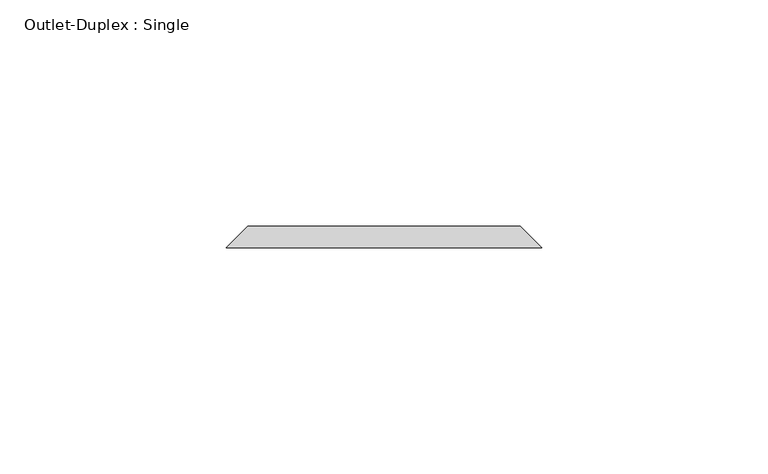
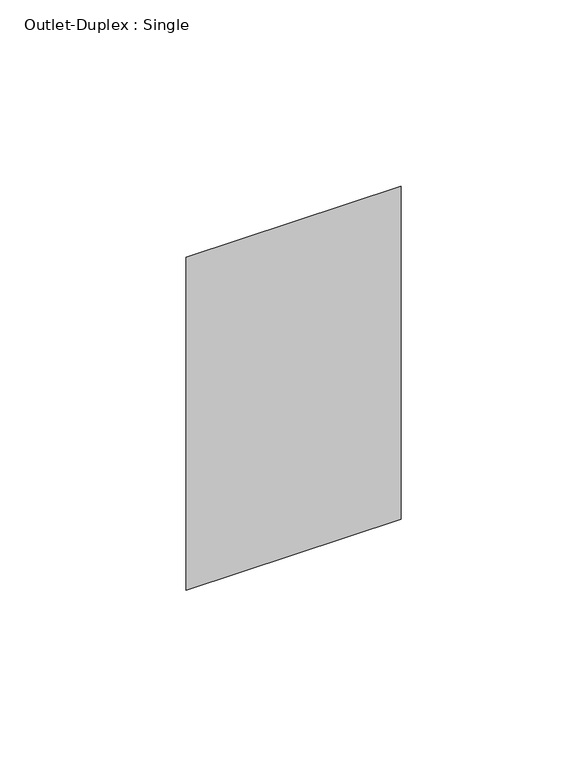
"""IFC4 building model written with IfcOpenShell, lengths in millimetres: proxy geometry, Outlet-Duplex : Single."""

import ifcopenshell
import ifcopenshell.guid

model = None  # the IFC model being written
_history = None  # IfcOwnerHistory: only IFC2X3 demands one
_inside = {}  # id of a spatial element -> (the spatial element, [elements in it])
_under = {}  # id of a project, library or spatial element -> (it, [spatial elements below it])
_declared = {}  # id of a project -> (the project, [libraries it declares])
_typed = {}  # id of a type object -> (the type object, [elements of that type])
_made_of = {}  # id of a material, layer set ... -> (it, [elements and type objects made of it])


def new_model(schema):
    """Start an empty IFC model of exactly this schema.

    Asked for "IFC4X3", IfcOpenShell would pick the latest addendum, in which some entities
    have other attributes; the version numbers below select the first issue.
    IFC2X3 requires an IfcOwnerHistory on every rooted entity: one is made here for all.
    """
    global model, _history
    if schema == "IFC4X3":
        model = ifcopenshell.file(schema_version=(4, 3, 0, 0))
    else:
        model = ifcopenshell.file(schema=schema)
    _inside.clear()
    _under.clear()
    _declared.clear()
    _typed.clear()
    _made_of.clear()
    _history = None
    if model.schema == "IFC2X3":
        org = make("IfcOrganization", Name="unknown")
        user = make(
            "IfcPersonAndOrganization",
            ThePerson=make("IfcPerson", FamilyName="unknown"),
            TheOrganization=org,
        )
        app = make(
            "IfcApplication",
            ApplicationDeveloper=org,
            Version="unknown",
            ApplicationFullName="unknown",
            ApplicationIdentifier="unknown",
        )
        _history = make(
            "IfcOwnerHistory",
            OwningUser=user,
            OwningApplication=app,
            ChangeAction="ADDED",
            CreationDate=0,
        )
    return model


def make(cls, **values):
    """One entity of the class cls with the attributes given. An attribute that is None is left unset."""
    return model.create_entity(
        cls, **{name: value for name, value in values.items() if value is not None}
    )


def rooted(cls, **values):
    """An entity with a GlobalId (a new one), such as an element, a storey or a relation."""
    return make(cls, GlobalId=ifcopenshell.guid.new(), OwnerHistory=_history, **values)


def si_unit(unit_type, name, prefix=None):
    """IfcSIUnit, for example si_unit("LENGTHUNIT", "METRE", prefix="MILLI")."""
    return make("IfcSIUnit", UnitType=unit_type, Prefix=prefix, Name=name)


def assignment(units):
    """IfcUnitAssignment: the units of a project."""
    return None if units is None else make("IfcUnitAssignment", Units=units)


def point(xyz):
    """IfcCartesianPoint."""
    return None if xyz is None else make("IfcCartesianPoint", Coordinates=xyz)


def direction(xyz):
    """IfcDirection."""
    return None if xyz is None else make("IfcDirection", DirectionRatios=xyz)


def frame(location, z_axis=None, x_axis=None):
    """IfcAxis2Placement3D, a coordinate frame: its origin and axes. An axis left out is left unset."""
    return make(
        "IfcAxis2Placement3D",
        Location=point(location),
        Axis=direction(z_axis),
        RefDirection=direction(x_axis),
    )


def origin():
    """The frame at (0, 0, 0) with its axes left unset."""
    return frame((0.0, 0.0, 0.0))


def place(relative_to, where):
    """IfcLocalPlacement: puts the frame where relative to a parent placement (None: the world)."""
    return make(
        "IfcLocalPlacement", PlacementRelTo=relative_to, RelativePlacement=where
    )


def context(
    kind, dimensions, precision=None, world=None, true_north=None, identifier=None
):
    """IfcGeometricRepresentationContext, for example the 3D "Model" context."""
    return make(
        "IfcGeometricRepresentationContext",
        ContextIdentifier=identifier,
        ContextType=kind,
        CoordinateSpaceDimension=dimensions,
        Precision=precision,
        WorldCoordinateSystem=world,
        TrueNorth=true_north,
    )


def project(units=None, contexts=None):
    """IfcProject with its units and contexts."""
    return rooted(
        "IfcProject",
        Name="project",
        RepresentationContexts=contexts,
        UnitsInContext=assignment(units),
    )


def spatial(cls, under=None, at=None, **own):
    """A site, building, storey or space (cls), placed at a placement, below another one or the project."""
    s = rooted(cls, ObjectPlacement=at, **own)
    if under is not None:
        _under.setdefault(under.id(), (under, []))[1].append(s)
    return s


def faces_of(points, faces, orient=None, outer=None):
    """IfcFace entities. A face is a list of loops; a loop is a list of indices into points, from 0.

    orient and outer hold one flag for each loop. By default every Orientation is true, the
    first loop of a face is its IfcFaceOuterBound and the others are IfcFaceBound.
    """
    made = []
    for i, loops in enumerate(faces):
        bounds = []
        for j, loop in enumerate(loops):
            is_outer = j == 0 if outer is None else outer[i][j]
            bounds.append(
                make(
                    "IfcFaceOuterBound" if is_outer else "IfcFaceBound",
                    Bound=make("IfcPolyLoop", Polygon=[points[k] for k in loop]),
                    Orientation=True if orient is None else orient[i][j],
                )
            )
        made.append(make("IfcFace", Bounds=bounds))
    return made


def faceted_brep(points, faces, orient=None, outer=None, voids=None):
    """IfcFacetedBrep: a solid bounded by flat faces; with voids (closed shells), ...WithVoids."""
    shared = [point(p) for p in points]
    hull = make("IfcClosedShell", CfsFaces=faces_of(shared, faces, orient, outer))
    if voids is None:
        return make("IfcFacetedBrep", Outer=hull)
    return make(
        "IfcFacetedBrepWithVoids",
        Outer=hull,
        Voids=[
            make(cls, CfsFaces=faces_of(shared, fs, o, b)) for cls, fs, o, b in voids
        ],
    )


def shape(context_of_items, identifier, shape_type, items):
    """IfcShapeRepresentation: the items that make up one representation, for example the "Body"."""
    return make(
        "IfcShapeRepresentation",
        ContextOfItems=context_of_items,
        RepresentationIdentifier=identifier,
        RepresentationType=shape_type,
        Items=items,
    )


def source(mapping_origin, context_of_items, identifier, shape_type, items):
    """IfcRepresentationMap: a shape defined once, which mapped items show again and again."""
    return make(
        "IfcRepresentationMap",
        MappingOrigin=mapping_origin,
        MappedRepresentation=shape(context_of_items, identifier, shape_type, items),
    )


def transform(
    local_origin,
    x_axis=None,
    y_axis=None,
    z_axis=None,
    scale=None,
    scale2=None,
    scale3=None,
    uniform=True,
):
    """IfcCartesianTransformationOperator3D, or its non-uniform kind. x_axis, y_axis, z_axis: its Axis1, 2, 3."""
    if uniform:
        return make(
            "IfcCartesianTransformationOperator3D",
            Axis1=direction(x_axis),
            Axis2=direction(y_axis),
            LocalOrigin=point(local_origin),
            Scale=scale,
            Axis3=direction(z_axis),
        )
    return make(
        "IfcCartesianTransformationOperator3DnonUniform",
        Axis1=direction(x_axis),
        Axis2=direction(y_axis),
        LocalOrigin=point(local_origin),
        Scale=scale,
        Axis3=direction(z_axis),
        Scale2=scale2,
        Scale3=scale3,
    )


def mapped(mapping_source, mapping_target):
    """IfcMappedItem: shows the shape of a source again, moved by a transform."""
    return make(
        "IfcMappedItem", MappingSource=mapping_source, MappingTarget=mapping_target
    )


def made_of(thing, what):
    """Note that an element or type object is made of a material, layer set ...; save() writes the relation."""
    if what is not None:
        _made_of.setdefault(what.id(), (what, []))[1].append(thing)
    return thing


def element(
    cls,
    number,
    at=None,
    inside=None,
    cuts=None,
    type_object=None,
    material=None,
    context=None,
    identifier="Body",
    shape_type=None,
    held_by="IfcProductDefinitionShape",
    body=None,
    shapes=None,
    **own,
):
    """One element of the class cls, such as IfcWall. Its Tag is "e" and its number.

    at: its placement. inside: the storey or other place that contains it. cuts: it is an
    opening in that element (IfcRelVoidsElement). A single representation is given by context,
    identifier, shape_type and body (its items); several are given by shapes. held_by: the class
    of the entity that holds the representations. save() writes the other relations.
    """
    e = rooted(cls, Tag="e%d" % number, ObjectPlacement=at, **own)
    if body is not None:
        shapes = [shape(context, identifier, shape_type, body)]
    if shapes is not None:
        e.Representation = make(held_by, Representations=shapes)
    if inside is not None:
        _inside.setdefault(inside.id(), (inside, []))[1].append(e)
    if cuts is not None:
        rooted(
            "IfcRelVoidsElement", RelatingBuildingElement=cuts, RelatedOpeningElement=e
        )
    if type_object is not None:
        _typed.setdefault(type_object.id(), (type_object, []))[1].append(e)
    return made_of(e, material)


def aggregate(whole, parts):
    """IfcRelAggregates: a whole, such as a stair, and the parts it consists of."""
    return rooted("IfcRelAggregates", RelatingObject=whole, RelatedObjects=parts)


def save(model, path):
    """Write the relations noted so far, then the file.

    IfcRelAggregates (storeys below a building ...), IfcRelContainedInSpatialStructure (elements
    in a storey), IfcRelDefinesByType, IfcRelAssociatesMaterial and IfcRelDeclares: one each for
    every whole, place, type object, material and project.
    """
    for whole, parts in _under.values():
        aggregate(whole, parts)
    for where, things in _inside.values():
        rooted(
            "IfcRelContainedInSpatialStructure",
            RelatedElements=things,
            RelatingStructure=where,
        )
    for kind, things in _typed.values():
        rooted("IfcRelDefinesByType", RelatedObjects=things, RelatingType=kind)
    for what, things in _made_of.values():
        rooted("IfcRelAssociatesMaterial", RelatedObjects=things, RelatingMaterial=what)
    for by, libraries in _declared.values():
        rooted("IfcRelDeclares", RelatingContext=by, RelatedDefinitions=libraries)
    model.write(path)


def outlet_duplex_single_71d20ff3(model_context):
    return source(origin(), model_context, "Body", "Brep", [
        faceted_brep([(-30.1625, 157.1625, 357.1875), (30.1625, 157.1625, 357.1875), (30.1625, 157.1625, 252.4125), (-30.1625, 157.1625, 252.4125), (-34.925, 152.4, 361.95), (-34.925, 152.4, 247.65), (34.925, 152.4, 247.65), (34.925, 152.4, 361.95)], [[[0, 1, 2, 3]], [[4, 5, 6, 7]], [[4, 7, 1, 0]], [[7, 6, 2, 1]], [[6, 5, 3, 2]], [[5, 4, 0, 3]]]),
    ])


if __name__ == "__main__":
    model = new_model("IFC4")
    model_context = context("Model", 3, world=origin())
    ifc_project = project(units=[si_unit("LENGTHUNIT", "METRE", prefix="MILLI")], contexts=[model_context])
    site = spatial("IfcSite", under=ifc_project)
    building = spatial("IfcBuilding", under=site)
    placement = place(None, origin())
    outlet_duplex_single_shape = outlet_duplex_single_71d20ff3(model_context)
    element("IfcBuildingElementProxy", 1, Name="Outlet-Duplex : Single", ObjectType="Outlet-Duplex : Single", at=placement, inside=building, context=model_context, shape_type="MappedRepresentation", body=[
        mapped(outlet_duplex_single_shape, transform((0.0, 0.0, 0.0), x_axis=(1.0, 0.0, 0.0), y_axis=(0.0, 1.0, 0.0), z_axis=(0.0, 0.0, 1.0))),
    ])
    save(model, "model.ifc")
